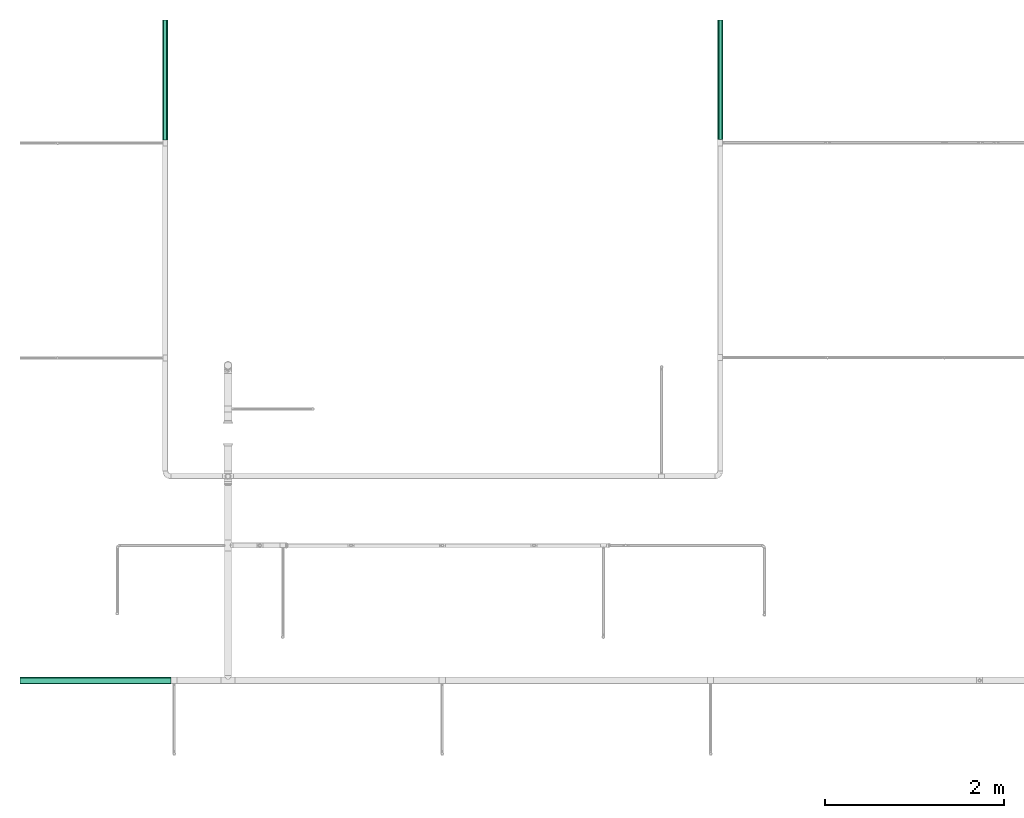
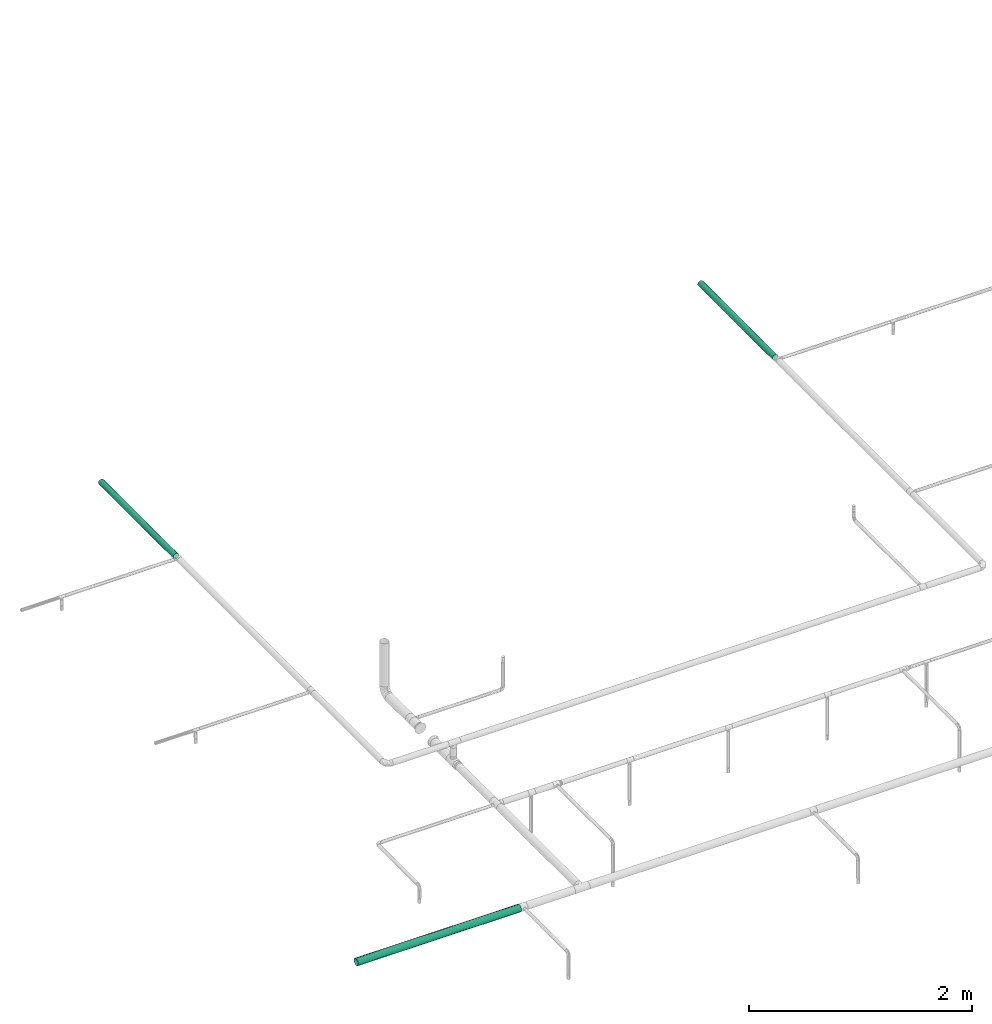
# One storey, part 38 of 45: 3 flow segments.
"""IFC2X3 building model written with IfcOpenShell, lengths in millimetres."""

from ifc_helpers import new_model, entity, si_unit, converted_unit, derived_unit, direction, frame, place, context, subcontext, project, spatial, faceted_brep, type_object, element, save


model = new_model("IFC2X3")

# Units and contexts
model_context = context("Model", 3, precision=0.01, world=frame((0.0, 4.29681676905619e-09, 0.0)), true_north=direction((4.01073788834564e-13, 1.0)))
plan_context = context("Plan", 3, precision=0.01, world=frame((0.0, 4.29681676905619e-09, 0.0)), true_north=direction((4.01073788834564e-13, 1.0)))
body_context = subcontext(model_context, "Body", "Model", "MODEL_VIEW")
ifc_project = project(units=[converted_unit("PLANEANGLEUNIT", "DEGREE", entity("IfcPositiveLengthMeasure", 0.0174532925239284), si_unit("PLANEANGLEUNIT", "RADIAN"), dimensions=[0, 0, 0, 0, 0, 0, 0]), si_unit("AREAUNIT", "SQUARE_METRE"), si_unit("LENGTHUNIT", "METRE", prefix="MILLI"), si_unit("MASSUNIT", "GRAM", prefix="KILO"), si_unit("POWERUNIT", "WATT"), si_unit("PRESSUREUNIT", "PASCAL", prefix="KILO"), si_unit("FORCEUNIT", "NEWTON", prefix="KILO"), si_unit("ELECTRICVOLTAGEUNIT", "VOLT"), si_unit("ELECTRICCURRENTUNIT", "AMPERE"), si_unit("THERMODYNAMICTEMPERATUREUNIT", "DEGREE_CELSIUS"), si_unit("TIMEUNIT", "SECOND"), si_unit("VOLUMEUNIT", "CUBIC_METRE"), derived_unit("LINEARVELOCITYUNIT", [(si_unit("LENGTHUNIT", "METRE"), 1), (si_unit("TIMEUNIT", "SECOND"), -1)]), derived_unit("VOLUMETRICFLOWRATEUNIT", [(si_unit("VOLUMEUNIT", "CUBIC_METRE"), 1), (si_unit("TIMEUNIT", "SECOND"), -1)]), derived_unit("THERMALTRANSMITTANCEUNIT", [(si_unit("POWERUNIT", "WATT"), 1), (si_unit("THERMODYNAMICTEMPERATUREUNIT", "KELVIN"), -1), (si_unit("AREAUNIT", "SQUARE_METRE"), -1)]), derived_unit("SOUNDPRESSUREUNIT", [(si_unit("PRESSUREUNIT", "PASCAL"), 1)])], contexts=[model_context, plan_context])

# Site, building, storey
site_placement = place(None, frame((0.0, -4.29681676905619e-09, 0.0), z_axis=(0.0, 0.0, 1.0), x_axis=(1.0, 0.0, 0.0)))
site = spatial("IfcSite", under=ifc_project, at=site_placement, CompositionType="ELEMENT")
building_placement = place(site_placement, frame((0.0, 4.29681676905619e-09, 0.0), z_axis=(0.0, 0.0, 1.0), x_axis=(1.0, 0.0, 0.0)))
building = spatial("IfcBuilding", under=site, at=building_placement, Name="mc-building", CompositionType="ELEMENT")
storey_placement = place(building_placement, frame((0.0, 0.0, 210200.0), z_axis=(0.0, 0.0, 1.0), x_axis=(1.0, 0.0, 0.0)))
storey = spatial("IfcBuildingStorey", under=building, at=storey_placement, Name="Nivå F - 0,7 m", CompositionType="ELEMENT", Elevation=210200.0)

# Flow segments
pipe_segment_type = type_object("IfcPipeSegmentType", Name="Stålrør normaltykke", PredefinedType="RIGIDSEGMENT")
flow_segment_1_placement = place(storey_placement, frame((323419.17326, 467855.2, 3145.0), z_axis=(0.0, 0.0, 1.0), x_axis=(0.0, -1.0, 0.0)))
element("IfcFlowSegment", 1, at=flow_segment_1_placement, inside=storey, type_object=pipe_segment_type, Name="Stålrør normaltykke", context=body_context, shape_type="Brep", body=[
    faceted_brep([(355.200000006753, 27.673097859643, -4.87951379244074), (355.200000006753, 28.1, 0.0), (1698.1, 28.1, 0.0), (1698.1, 27.673097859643, -4.87951379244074), (355.200000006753, 26.405362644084, -9.61076602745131), (1698.1, 26.405362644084, -9.61076602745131), (355.200000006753, 24.3353138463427, -14.05), (1698.1, 24.3353138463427, -14.05), (355.200000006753, 21.5258488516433, -18.0623318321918), (1698.1, 21.5258488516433, -18.0623318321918), (355.200000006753, 18.0623318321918, -21.5258488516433), (1698.1, 18.0623318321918, -21.5258488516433), (355.200000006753, 14.05, -24.3353138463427), (1698.1, 14.05, -24.3353138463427), (355.200000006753, 9.61076602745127, -26.405362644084), (1698.1, 9.61076602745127, -26.405362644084), (355.200000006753, 4.87951379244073, -27.6730978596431), (1698.1, 4.87951379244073, -27.6730978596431), (355.200000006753, -5.16188625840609e-15, -28.1), (1698.1, -5.16188625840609e-15, -28.1), (355.200000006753, -4.87951379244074, -27.673097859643), (1698.1, -4.87951379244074, -27.673097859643), (355.200000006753, -9.61076602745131, -26.405362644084), (1698.1, -9.61076602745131, -26.405362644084), (355.200000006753, -14.05, -24.3353138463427), (1698.1, -14.05, -24.3353138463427), (355.200000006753, -18.0623318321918, -21.5258488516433), (1698.1, -18.0623318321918, -21.5258488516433), (355.200000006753, -21.5258488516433, -18.0623318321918), (1698.1, -21.5258488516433, -18.0623318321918), (355.200000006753, -24.3353138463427, -14.05), (1698.1, -24.3353138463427, -14.05), (355.200000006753, -26.405362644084, -9.61076602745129), (1698.1, -26.405362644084, -9.61076602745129), (355.200000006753, -27.6730978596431, -4.87951379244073), (1698.1, -27.6730978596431, -4.87951379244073), (355.200000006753, -28.1, 3.44125750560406e-15), (1698.1, -28.1, 3.44125750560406e-15), (355.200000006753, -27.673097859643, 4.87951379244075), (1698.1, -27.673097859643, 4.87951379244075), (355.200000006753, -26.405362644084, 9.6107660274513), (1698.1, -26.405362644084, 9.6107660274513), (355.200000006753, -24.3353138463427, 14.05), (1698.1, -24.3353138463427, 14.05), (355.200000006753, -21.5258488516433, 18.0623318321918), (1698.1, -21.5258488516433, 18.0623318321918), (355.200000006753, -18.0623318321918, 21.5258488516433), (1698.1, -18.0623318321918, 21.5258488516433), (355.200000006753, -14.05, 24.3353138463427), (1698.1, -14.05, 24.3353138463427), (355.200000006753, -9.61076602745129, 26.405362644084), (1698.1, -9.61076602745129, 26.405362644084), (355.200000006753, -4.87951379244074, 27.673097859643), (1698.1, -4.87951379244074, 27.673097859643), (355.200000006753, 1.72062875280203e-15, 28.1), (1698.1, 1.72062875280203e-15, 28.1), (355.200000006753, 4.87951379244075, 27.673097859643), (1698.1, 4.87951379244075, 27.673097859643), (355.200000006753, 9.61076602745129, 26.405362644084), (1698.1, 9.61076602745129, 26.405362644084), (355.200000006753, 14.05, 24.3353138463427), (1698.1, 14.05, 24.3353138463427), (355.200000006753, 18.0623318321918, 21.5258488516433), (1698.1, 18.0623318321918, 21.5258488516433), (355.200000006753, 21.5258488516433, 18.0623318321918), (1698.1, 21.5258488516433, 18.0623318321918), (355.200000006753, 24.3353138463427, 14.05), (1698.1, 24.3353138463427, 14.05), (355.200000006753, 26.405362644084, 9.61076602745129), (1698.1, 26.405362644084, 9.61076602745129), (355.200000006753, 27.673097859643, 4.87951379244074), (1698.1, 27.673097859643, 4.87951379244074), (355.200000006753, 30.1, 0.0), (355.200000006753, 29.6427133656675, -5.2268101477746), (1698.1, 29.6427133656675, -5.2268101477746), (1698.1, 30.1, 0.0), (355.200000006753, 29.6427133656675, 5.2268101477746), (1698.1, 29.6427133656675, 5.2268101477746), (355.200000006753, 28.2847478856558, 10.2948063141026), (1698.1, 28.2847478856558, 10.2948063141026), (355.200000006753, 26.0673646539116, 15.05), (1698.1, 26.0673646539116, 15.05), (355.200000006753, 23.0579377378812, 19.3479070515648), (1698.1, 23.0579377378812, 19.3479070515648), (355.200000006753, 19.3479070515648, 23.0579377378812), (1698.1, 19.3479070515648, 23.0579377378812), (355.200000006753, 15.05, 26.0673646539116), (1698.1, 15.05, 26.0673646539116), (355.200000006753, 10.2948063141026, 28.2847478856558), (1698.1, 10.2948063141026, 28.2847478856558), (355.200000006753, 5.22681014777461, 29.6427133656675), (1698.1, 5.22681014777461, 29.6427133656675), (355.200000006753, 1.84309343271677e-15, 30.1), (1698.1, 1.84309343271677e-15, 30.1), (355.200000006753, -5.2268101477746, 29.6427133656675), (1698.1, -5.2268101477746, 29.6427133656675), (355.200000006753, -10.2948063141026, 28.2847478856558), (1698.1, -10.2948063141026, 28.2847478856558), (355.200000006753, -15.05, 26.0673646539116), (1698.1, -15.05, 26.0673646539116), (355.200000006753, -19.3479070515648, 23.0579377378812), (1698.1, -19.3479070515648, 23.0579377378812), (355.200000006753, -23.0579377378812, 19.3479070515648), (1698.1, -23.0579377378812, 19.3479070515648), (355.200000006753, -26.0673646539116, 15.05), (1698.1, -26.0673646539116, 15.05), (355.200000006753, -28.2847478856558, 10.2948063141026), (1698.1, -28.2847478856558, 10.2948063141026), (355.200000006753, -29.6427133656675, 5.22681014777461), (1698.1, -29.6427133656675, 5.22681014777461), (355.200000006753, -30.1, 3.68618686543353e-15), (1698.1, -30.1, 3.68618686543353e-15), (355.200000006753, -29.6427133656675, -5.22681014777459), (1698.1, -29.6427133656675, -5.22681014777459), (355.200000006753, -28.2847478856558, -10.2948063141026), (1698.1, -28.2847478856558, -10.2948063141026), (355.200000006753, -26.0673646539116, -15.05), (1698.1, -26.0673646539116, -15.05), (355.200000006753, -23.0579377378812, -19.3479070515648), (1698.1, -23.0579377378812, -19.3479070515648), (355.200000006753, -19.3479070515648, -23.0579377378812), (1698.1, -19.3479070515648, -23.0579377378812), (355.200000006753, -15.05, -26.0673646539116), (1698.1, -15.05, -26.0673646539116), (355.200000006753, -10.2948063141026, -28.2847478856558), (1698.1, -10.2948063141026, -28.2847478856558), (355.200000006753, -5.2268101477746, -29.6427133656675), (1698.1, -5.2268101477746, -29.6427133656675), (355.200000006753, -5.5292802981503e-15, -30.1), (1698.1, -5.5292802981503e-15, -30.1), (355.200000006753, 5.22681014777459, -29.6427133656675), (1698.1, 5.22681014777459, -29.6427133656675), (355.200000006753, 10.2948063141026, -28.2847478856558), (1698.1, 10.2948063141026, -28.2847478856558), (355.200000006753, 15.05, -26.0673646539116), (1698.1, 15.05, -26.0673646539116), (355.200000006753, 19.3479070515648, -23.0579377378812), (1698.1, 19.3479070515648, -23.0579377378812), (355.200000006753, 23.0579377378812, -19.3479070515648), (1698.1, 23.0579377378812, -19.3479070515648), (355.200000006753, 26.0673646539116, -15.05), (1698.1, 26.0673646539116, -15.05), (355.200000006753, 28.2847478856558, -10.2948063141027), (1698.1, 28.2847478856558, -10.2948063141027)], [[[0, 1, 2, 3]], [[4, 0, 3, 5]], [[6, 4, 5, 7]], [[8, 6, 7, 9]], [[10, 8, 9, 11]], [[12, 10, 11, 13]], [[14, 12, 13, 15]], [[16, 14, 15, 17]], [[18, 16, 17, 19]], [[20, 18, 19, 21]], [[22, 20, 21, 23]], [[24, 22, 23, 25]], [[26, 24, 25, 27]], [[28, 26, 27, 29]], [[30, 28, 29, 31]], [[32, 30, 31, 33]], [[34, 32, 33, 35]], [[36, 34, 35, 37]], [[38, 36, 37, 39]], [[40, 38, 39, 41]], [[42, 40, 41, 43]], [[44, 42, 43, 45]], [[46, 44, 45, 47]], [[48, 46, 47, 49]], [[50, 48, 49, 51]], [[52, 50, 51, 53]], [[54, 52, 53, 55]], [[56, 54, 55, 57]], [[58, 56, 57, 59]], [[60, 58, 59, 61]], [[62, 60, 61, 63]], [[64, 62, 63, 65]], [[66, 64, 65, 67]], [[68, 66, 67, 69]], [[70, 68, 69, 71]], [[1, 70, 71, 2]], [[72, 73, 74, 75]], [[76, 72, 75, 77]], [[78, 76, 77, 79]], [[80, 78, 79, 81]], [[82, 80, 81, 83]], [[84, 82, 83, 85]], [[86, 84, 85, 87]], [[88, 86, 87, 89]], [[90, 88, 89, 91]], [[92, 90, 91, 93]], [[94, 92, 93, 95]], [[96, 94, 95, 97]], [[98, 96, 97, 99]], [[100, 98, 99, 101]], [[102, 100, 101, 103]], [[104, 102, 103, 105]], [[106, 104, 105, 107]], [[108, 106, 107, 109]], [[110, 108, 109, 111]], [[112, 110, 111, 113]], [[114, 112, 113, 115]], [[116, 114, 115, 117]], [[118, 116, 117, 119]], [[120, 118, 119, 121]], [[122, 120, 121, 123]], [[124, 122, 123, 125]], [[126, 124, 125, 127]], [[128, 126, 127, 129]], [[130, 128, 129, 131]], [[132, 130, 131, 133]], [[134, 132, 133, 135]], [[136, 134, 135, 137]], [[138, 136, 137, 139]], [[140, 138, 139, 141]], [[142, 140, 141, 143]], [[73, 142, 143, 74]], [[75, 74, 143, 141, 139, 137, 135, 133, 131, 129, 127, 125, 123, 121, 119, 117, 115, 113, 111, 109, 107, 105, 103, 101, 99, 97, 95, 93, 91, 89, 87, 85, 83, 81, 79, 77], [2, 71, 69, 67, 65, 63, 61, 59, 57, 55, 53, 51, 49, 47, 45, 43, 41, 39, 37, 35, 33, 31, 29, 27, 25, 23, 21, 19, 17, 15, 13, 11, 9, 7, 5, 3]], [[76, 78, 80, 82, 84, 86, 88, 90, 92, 94, 96, 98, 100, 102, 104, 106, 108, 110, 112, 114, 116, 118, 120, 122, 124, 126, 128, 130, 132, 134, 136, 138, 140, 142, 73, 72], [4, 6, 8, 10, 12, 14, 16, 18, 20, 22, 24, 26, 28, 30, 32, 34, 36, 38, 40, 42, 44, 46, 48, 50, 52, 54, 56, 58, 60, 62, 64, 66, 68, 70, 1, 0]]], orient=[[False], [False], [False], [False], [False], [False], [False], [False], [False], [False], [False], [False], [False], [False], [False], [False], [False], [False], [False], [False], [False], [False], [False], [False], [False], [False], [False], [False], [False], [False], [False], [False], [False], [False], [False], [False], [False], [False], [False], [False], [False], [False], [False], [False], [False], [False], [False], [False], [False], [False], [False], [False], [False], [False], [False], [False], [False], [False], [False], [False], [False], [False], [False], [False], [False], [False], [False], [False], [False], [False], [False], [False], [False, False], [False, False]]),
])
flow_segment_2_placement = place(storey_placement, frame((329619.17326, 466162.05463, 3145.0), z_axis=(0.0, 0.0, 1.0), x_axis=(0.0, 1.0, 0.0)))
element("IfcFlowSegment", 2, at=flow_segment_2_placement, inside=storey, type_object=pipe_segment_type, Name="Stålrør normaltykke", context=body_context, shape_type="Brep", body=[
    faceted_brep([(1337.94536999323, 28.1, 0.0), (1337.94536999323, 27.673097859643, -4.87951379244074), (0.0, 27.673097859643, -4.87951379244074), (0.0, 28.1, 0.0), (1337.94536999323, 26.405362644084, -9.61076602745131), (0.0, 26.405362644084, -9.61076602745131), (1337.94536999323, 24.3353138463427, -14.05), (0.0, 24.3353138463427, -14.05), (1337.94536999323, 21.5258488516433, -18.0623318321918), (0.0, 21.5258488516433, -18.0623318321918), (1337.94536999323, 18.0623318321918, -21.5258488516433), (0.0, 18.0623318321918, -21.5258488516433), (1337.94536999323, 14.05, -24.3353138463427), (0.0, 14.05, -24.3353138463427), (1337.94536999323, 9.61076602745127, -26.405362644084), (0.0, 9.61076602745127, -26.405362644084), (1337.94536999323, 4.87951379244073, -27.6730978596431), (0.0, 4.87951379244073, -27.6730978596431), (1337.94536999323, -5.16188625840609e-15, -28.1), (0.0, -5.16188625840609e-15, -28.1), (1337.94536999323, -4.87951379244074, -27.673097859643), (0.0, -4.87951379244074, -27.673097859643), (1337.94536999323, -9.61076602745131, -26.405362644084), (0.0, -9.61076602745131, -26.405362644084), (1337.94536999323, -14.05, -24.3353138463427), (0.0, -14.05, -24.3353138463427), (1337.94536999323, -18.0623318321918, -21.5258488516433), (0.0, -18.0623318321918, -21.5258488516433), (1337.94536999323, -21.5258488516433, -18.0623318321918), (0.0, -21.5258488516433, -18.0623318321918), (1337.94536999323, -24.3353138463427, -14.05), (0.0, -24.3353138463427, -14.05), (1337.94536999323, -26.405362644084, -9.61076602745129), (0.0, -26.405362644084, -9.61076602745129), (1337.94536999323, -27.6730978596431, -4.87951379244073), (0.0, -27.6730978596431, -4.87951379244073), (1337.94536999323, -28.1, 3.44125750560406e-15), (0.0, -28.1, 3.44125750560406e-15), (1337.94536999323, -27.673097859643, 4.87951379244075), (0.0, -27.673097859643, 4.87951379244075), (1337.94536999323, -26.405362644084, 9.6107660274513), (0.0, -26.405362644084, 9.6107660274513), (1337.94536999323, -24.3353138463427, 14.05), (0.0, -24.3353138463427, 14.05), (1337.94536999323, -21.5258488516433, 18.0623318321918), (0.0, -21.5258488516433, 18.0623318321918), (1337.94536999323, -18.0623318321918, 21.5258488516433), (0.0, -18.0623318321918, 21.5258488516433), (1337.94536999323, -14.05, 24.3353138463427), (0.0, -14.05, 24.3353138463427), (1337.94536999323, -9.61076602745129, 26.405362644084), (0.0, -9.61076602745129, 26.405362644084), (1337.94536999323, -4.87951379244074, 27.673097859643), (0.0, -4.87951379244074, 27.673097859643), (1337.94536999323, 1.72062875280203e-15, 28.1), (0.0, 1.72062875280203e-15, 28.1), (1337.94536999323, 4.87951379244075, 27.673097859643), (0.0, 4.87951379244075, 27.673097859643), (1337.94536999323, 9.61076602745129, 26.405362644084), (0.0, 9.61076602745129, 26.405362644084), (1337.94536999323, 14.05, 24.3353138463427), (0.0, 14.05, 24.3353138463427), (1337.94536999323, 18.0623318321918, 21.5258488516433), (0.0, 18.0623318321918, 21.5258488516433), (1337.94536999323, 21.5258488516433, 18.0623318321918), (0.0, 21.5258488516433, 18.0623318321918), (1337.94536999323, 24.3353138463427, 14.05), (0.0, 24.3353138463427, 14.05), (1337.94536999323, 26.405362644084, 9.61076602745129), (0.0, 26.405362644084, 9.61076602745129), (1337.94536999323, 27.673097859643, 4.87951379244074), (0.0, 27.673097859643, 4.87951379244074), (1337.94536999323, 29.6427133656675, -5.2268101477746), (1337.94536999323, 30.1, 0.0), (0.0, 30.1, 0.0), (0.0, 29.6427133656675, -5.2268101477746), (1337.94536999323, 29.6427133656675, 5.2268101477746), (0.0, 29.6427133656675, 5.2268101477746), (1337.94536999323, 28.2847478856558, 10.2948063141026), (0.0, 28.2847478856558, 10.2948063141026), (1337.94536999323, 26.0673646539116, 15.05), (0.0, 26.0673646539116, 15.05), (1337.94536999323, 23.0579377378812, 19.3479070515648), (0.0, 23.0579377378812, 19.3479070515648), (1337.94536999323, 19.3479070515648, 23.0579377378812), (0.0, 19.3479070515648, 23.0579377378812), (1337.94536999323, 15.05, 26.0673646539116), (0.0, 15.05, 26.0673646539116), (1337.94536999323, 10.2948063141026, 28.2847478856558), (0.0, 10.2948063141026, 28.2847478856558), (1337.94536999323, 5.22681014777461, 29.6427133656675), (0.0, 5.22681014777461, 29.6427133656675), (1337.94536999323, 1.84309343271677e-15, 30.1), (0.0, 1.84309343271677e-15, 30.1), (1337.94536999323, -5.2268101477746, 29.6427133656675), (0.0, -5.2268101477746, 29.6427133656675), (1337.94536999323, -10.2948063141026, 28.2847478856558), (0.0, -10.2948063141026, 28.2847478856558), (1337.94536999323, -15.05, 26.0673646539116), (0.0, -15.05, 26.0673646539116), (1337.94536999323, -19.3479070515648, 23.0579377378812), (0.0, -19.3479070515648, 23.0579377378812), (1337.94536999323, -23.0579377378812, 19.3479070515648), (0.0, -23.0579377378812, 19.3479070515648), (1337.94536999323, -26.0673646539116, 15.05), (0.0, -26.0673646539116, 15.05), (1337.94536999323, -28.2847478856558, 10.2948063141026), (0.0, -28.2847478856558, 10.2948063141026), (1337.94536999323, -29.6427133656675, 5.22681014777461), (0.0, -29.6427133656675, 5.22681014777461), (1337.94536999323, -30.1, 3.68618686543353e-15), (0.0, -30.1, 3.68618686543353e-15), (1337.94536999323, -29.6427133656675, -5.22681014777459), (0.0, -29.6427133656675, -5.22681014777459), (1337.94536999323, -28.2847478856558, -10.2948063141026), (0.0, -28.2847478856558, -10.2948063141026), (1337.94536999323, -26.0673646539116, -15.05), (0.0, -26.0673646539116, -15.05), (1337.94536999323, -23.0579377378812, -19.3479070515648), (0.0, -23.0579377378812, -19.3479070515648), (1337.94536999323, -19.3479070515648, -23.0579377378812), (0.0, -19.3479070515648, -23.0579377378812), (1337.94536999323, -15.05, -26.0673646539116), (0.0, -15.05, -26.0673646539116), (1337.94536999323, -10.2948063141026, -28.2847478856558), (0.0, -10.2948063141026, -28.2847478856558), (1337.94536999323, -5.2268101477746, -29.6427133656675), (0.0, -5.2268101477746, -29.6427133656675), (1337.94536999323, -5.5292802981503e-15, -30.1), (0.0, -5.5292802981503e-15, -30.1), (1337.94536999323, 5.22681014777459, -29.6427133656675), (0.0, 5.22681014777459, -29.6427133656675), (1337.94536999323, 10.2948063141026, -28.2847478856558), (0.0, 10.2948063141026, -28.2847478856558), (1337.94536999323, 15.05, -26.0673646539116), (0.0, 15.05, -26.0673646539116), (1337.94536999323, 19.3479070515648, -23.0579377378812), (0.0, 19.3479070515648, -23.0579377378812), (1337.94536999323, 23.0579377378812, -19.3479070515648), (0.0, 23.0579377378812, -19.3479070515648), (1337.94536999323, 26.0673646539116, -15.05), (0.0, 26.0673646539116, -15.05), (1337.94536999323, 28.2847478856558, -10.2948063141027), (0.0, 28.2847478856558, -10.2948063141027)], [[[0, 1, 2, 3]], [[1, 4, 5, 2]], [[4, 6, 7, 5]], [[6, 8, 9, 7]], [[8, 10, 11, 9]], [[10, 12, 13, 11]], [[12, 14, 15, 13]], [[14, 16, 17, 15]], [[16, 18, 19, 17]], [[18, 20, 21, 19]], [[20, 22, 23, 21]], [[22, 24, 25, 23]], [[24, 26, 27, 25]], [[26, 28, 29, 27]], [[28, 30, 31, 29]], [[30, 32, 33, 31]], [[32, 34, 35, 33]], [[34, 36, 37, 35]], [[36, 38, 39, 37]], [[38, 40, 41, 39]], [[40, 42, 43, 41]], [[42, 44, 45, 43]], [[44, 46, 47, 45]], [[46, 48, 49, 47]], [[48, 50, 51, 49]], [[50, 52, 53, 51]], [[52, 54, 55, 53]], [[54, 56, 57, 55]], [[56, 58, 59, 57]], [[58, 60, 61, 59]], [[60, 62, 63, 61]], [[62, 64, 65, 63]], [[64, 66, 67, 65]], [[66, 68, 69, 67]], [[68, 70, 71, 69]], [[70, 0, 3, 71]], [[72, 73, 74, 75]], [[73, 76, 77, 74]], [[76, 78, 79, 77]], [[78, 80, 81, 79]], [[80, 82, 83, 81]], [[82, 84, 85, 83]], [[84, 86, 87, 85]], [[86, 88, 89, 87]], [[88, 90, 91, 89]], [[90, 92, 93, 91]], [[92, 94, 95, 93]], [[94, 96, 97, 95]], [[96, 98, 99, 97]], [[98, 100, 101, 99]], [[100, 102, 103, 101]], [[102, 104, 105, 103]], [[104, 106, 107, 105]], [[106, 108, 109, 107]], [[108, 110, 111, 109]], [[110, 112, 113, 111]], [[112, 114, 115, 113]], [[114, 116, 117, 115]], [[116, 118, 119, 117]], [[118, 120, 121, 119]], [[120, 122, 123, 121]], [[122, 124, 125, 123]], [[124, 126, 127, 125]], [[126, 128, 129, 127]], [[128, 130, 131, 129]], [[130, 132, 133, 131]], [[132, 134, 135, 133]], [[134, 136, 137, 135]], [[136, 138, 139, 137]], [[138, 140, 141, 139]], [[140, 142, 143, 141]], [[142, 72, 75, 143]], [[75, 74, 77, 79, 81, 83, 85, 87, 89, 91, 93, 95, 97, 99, 101, 103, 105, 107, 109, 111, 113, 115, 117, 119, 121, 123, 125, 127, 129, 131, 133, 135, 137, 139, 141, 143], [3, 2, 5, 7, 9, 11, 13, 15, 17, 19, 21, 23, 25, 27, 29, 31, 33, 35, 37, 39, 41, 43, 45, 47, 49, 51, 53, 55, 57, 59, 61, 63, 65, 67, 69, 71]], [[142, 140, 138, 136, 134, 132, 130, 128, 126, 124, 122, 120, 118, 116, 114, 112, 110, 108, 106, 104, 102, 100, 98, 96, 94, 92, 90, 88, 86, 84, 82, 80, 78, 76, 73, 72], [70, 68, 66, 64, 62, 60, 58, 56, 54, 52, 50, 48, 46, 44, 42, 40, 38, 36, 34, 32, 30, 28, 26, 24, 22, 20, 18, 16, 14, 12, 10, 8, 6, 4, 1, 0]]], orient=[[False], [False], [False], [False], [False], [False], [False], [False], [False], [False], [False], [False], [False], [False], [False], [False], [False], [False], [False], [False], [False], [False], [False], [False], [False], [False], [False], [False], [False], [False], [False], [False], [False], [False], [False], [False], [False], [False], [False], [False], [False], [False], [False], [False], [False], [False], [False], [False], [False], [False], [False], [False], [False], [False], [False], [False], [False], [False], [False], [False], [False], [False], [False], [False], [False], [False], [False], [False], [False], [False], [False], [False], [False, False], [False, False]]),
])
flow_segment_3_placement = place(storey_placement, frame((320552.41043, 460120.00018, 2938.0), z_axis=(0.0, 0.0, 1.0), x_axis=(1.0, 0.0, 0.0)))
element("IfcFlowSegment", 3, at=flow_segment_3_placement, inside=storey, type_object=pipe_segment_type, Name="Stålrør normaltykke", context=body_context, shape_type="Brep", body=[
    faceted_brep([(1242.33957000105, 35.4530791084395, -6.25133439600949), (1242.33957000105, 36.0, 0.0), (2932.4, 36.0, 0.0), (2932.4, 35.4530791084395, -6.25133439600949), (1242.33957000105, 33.8289343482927, -12.3127251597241), (2932.4, 33.8289343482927, -12.3127251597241), (1242.33957000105, 31.1769145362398, -18.0), (2932.4, 31.1769145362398, -18.0), (1242.33957000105, 27.5775999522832, -23.1403539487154), (2932.4, 27.5775999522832, -23.1403539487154), (1242.33957000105, 23.1403539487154, -27.5775999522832), (2932.4, 23.1403539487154, -27.5775999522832), (1242.33957000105, 18.0, -31.1769145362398), (2932.4, 18.0, -31.1769145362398), (1242.33957000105, 12.3127251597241, -33.8289343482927), (2932.4, 12.3127251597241, -33.8289343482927), (1242.33957000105, 6.25133439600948, -35.4530791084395), (2932.4, 6.25133439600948, -35.4530791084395), (1242.33957000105, -6.61309271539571e-15, -36.0), (2932.4, -6.61309271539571e-15, -36.0), (1242.33957000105, -6.25133439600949, -35.4530791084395), (2932.4, -6.25133439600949, -35.4530791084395), (1242.33957000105, -12.3127251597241, -33.8289343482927), (2932.4, -12.3127251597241, -33.8289343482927), (1242.33957000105, -18.0, -31.1769145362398), (2932.4, -18.0, -31.1769145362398), (1242.33957000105, -23.1403539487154, -27.5775999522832), (2932.4, -23.1403539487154, -27.5775999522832), (1242.33957000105, -27.5775999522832, -23.1403539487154), (2932.4, -27.5775999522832, -23.1403539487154), (1242.33957000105, -31.1769145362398, -18.0), (2932.4, -31.1769145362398, -18.0), (1242.33957000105, -33.8289343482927, -12.3127251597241), (2932.4, -33.8289343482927, -12.3127251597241), (1242.33957000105, -35.4530791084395, -6.25133439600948), (2932.4, -35.4530791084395, -6.25133439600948), (1242.33957000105, -36.0, 4.40872847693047e-15), (2932.4, -36.0, 4.40872847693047e-15), (1242.33957000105, -35.4530791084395, 6.25133439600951), (2932.4, -35.4530791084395, 6.25133439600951), (1242.33957000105, -33.8289343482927, 12.3127251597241), (2932.4, -33.8289343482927, 12.3127251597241), (1242.33957000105, -31.1769145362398, 18.0), (2932.4, -31.1769145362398, 18.0), (1242.33957000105, -27.5775999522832, 23.1403539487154), (2932.4, -27.5775999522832, 23.1403539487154), (1242.33957000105, -23.1403539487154, 27.5775999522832), (2932.4, -23.1403539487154, 27.5775999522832), (1242.33957000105, -18.0, 31.1769145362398), (2932.4, -18.0, 31.1769145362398), (1242.33957000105, -12.3127251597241, 33.8289343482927), (2932.4, -12.3127251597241, 33.8289343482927), (1242.33957000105, -6.25133439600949, 35.4530791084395), (2932.4, -6.25133439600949, 35.4530791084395), (1242.33957000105, 2.20436423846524e-15, 36.0), (2932.4, 2.20436423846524e-15, 36.0), (1242.33957000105, 6.2513343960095, 35.4530791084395), (2932.4, 6.2513343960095, 35.4530791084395), (1242.33957000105, 12.3127251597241, 33.8289343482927), (2932.4, 12.3127251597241, 33.8289343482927), (1242.33957000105, 18.0, 31.1769145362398), (2932.4, 18.0, 31.1769145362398), (1242.33957000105, 23.1403539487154, 27.5775999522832), (2932.4, 23.1403539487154, 27.5775999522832), (1242.33957000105, 27.5775999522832, 23.1403539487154), (2932.4, 27.5775999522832, 23.1403539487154), (1242.33957000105, 31.1769145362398, 18.0), (2932.4, 31.1769145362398, 18.0), (1242.33957000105, 33.8289343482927, 12.3127251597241), (2932.4, 33.8289343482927, 12.3127251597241), (1242.33957000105, 35.4530791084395, 6.25133439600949), (2932.4, 35.4530791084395, 6.25133439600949), (1242.33957000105, 38.0, 0.0), (1242.33957000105, 37.4226946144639, -6.59863075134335), (2932.4, 37.4226946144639, -6.59863075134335), (2932.4, 38.0, 0.0), (1242.33957000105, 37.4226946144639, 6.59863075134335), (2932.4, 37.4226946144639, 6.59863075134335), (1242.33957000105, 35.7083195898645, 12.9967654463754), (2932.4, 35.7083195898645, 12.9967654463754), (1242.33957000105, 32.9089653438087, 19.0), (2932.4, 32.9089653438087, 19.0), (1242.33957000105, 29.1096888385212, 24.4259291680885), (2932.4, 29.1096888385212, 24.4259291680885), (1242.33957000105, 24.4259291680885, 29.1096888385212), (2932.4, 24.4259291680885, 29.1096888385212), (1242.33957000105, 19.0, 32.9089653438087), (2932.4, 19.0, 32.9089653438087), (1242.33957000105, 12.9967654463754, 35.7083195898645), (2932.4, 12.9967654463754, 35.7083195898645), (1242.33957000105, 6.59863075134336, 37.4226946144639), (2932.4, 6.59863075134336, 37.4226946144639), (1242.33957000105, 2.32682891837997e-15, 38.0), (2932.4, 2.32682891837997e-15, 38.0), (1242.33957000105, -6.59863075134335, 37.4226946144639), (2932.4, -6.59863075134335, 37.4226946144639), (1242.33957000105, -12.9967654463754, 35.7083195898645), (2932.4, -12.9967654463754, 35.7083195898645), (1242.33957000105, -19.0, 32.9089653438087), (2932.4, -19.0, 32.9089653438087), (1242.33957000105, -24.4259291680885, 29.1096888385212), (2932.4, -24.4259291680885, 29.1096888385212), (1242.33957000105, -29.1096888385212, 24.4259291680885), (2932.4, -29.1096888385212, 24.4259291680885), (1242.33957000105, -32.9089653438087, 19.0), (2932.4, -32.9089653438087, 19.0), (1242.33957000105, -35.7083195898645, 12.9967654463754), (2932.4, -35.7083195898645, 12.9967654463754), (1242.33957000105, -37.4226946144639, 6.59863075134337), (2932.4, -37.4226946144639, 6.59863075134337), (1242.33957000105, -38.0, 4.65365783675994e-15), (2932.4, -38.0, 4.65365783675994e-15), (1242.33957000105, -37.4226946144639, -6.59863075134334), (2932.4, -37.4226946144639, -6.59863075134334), (1242.33957000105, -35.7083195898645, -12.9967654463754), (2932.4, -35.7083195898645, -12.9967654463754), (1242.33957000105, -32.9089653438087, -19.0), (2932.4, -32.9089653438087, -19.0), (1242.33957000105, -29.1096888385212, -24.4259291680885), (2932.4, -29.1096888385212, -24.4259291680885), (1242.33957000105, -24.4259291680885, -29.1096888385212), (2932.4, -24.4259291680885, -29.1096888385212), (1242.33957000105, -19.0, -32.9089653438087), (2932.4, -19.0, -32.9089653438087), (1242.33957000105, -12.9967654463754, -35.7083195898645), (2932.4, -12.9967654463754, -35.7083195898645), (1242.33957000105, -6.59863075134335, -37.4226946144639), (2932.4, -6.59863075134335, -37.4226946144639), (1242.33957000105, -6.98048675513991e-15, -38.0), (2932.4, -6.98048675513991e-15, -38.0), (1242.33957000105, 6.59863075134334, -37.4226946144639), (2932.4, 6.59863075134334, -37.4226946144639), (1242.33957000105, 12.9967654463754, -35.7083195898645), (2932.4, 12.9967654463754, -35.7083195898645), (1242.33957000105, 19.0, -32.9089653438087), (2932.4, 19.0, -32.9089653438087), (1242.33957000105, 24.4259291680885, -29.1096888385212), (2932.4, 24.4259291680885, -29.1096888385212), (1242.33957000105, 29.1096888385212, -24.4259291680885), (2932.4, 29.1096888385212, -24.4259291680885), (1242.33957000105, 32.9089653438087, -19.0), (2932.4, 32.9089653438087, -19.0), (1242.33957000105, 35.7083195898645, -12.9967654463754), (2932.4, 35.7083195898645, -12.9967654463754)], [[[0, 1, 2, 3]], [[4, 0, 3, 5]], [[6, 4, 5, 7]], [[8, 6, 7, 9]], [[10, 8, 9, 11]], [[12, 10, 11, 13]], [[14, 12, 13, 15]], [[16, 14, 15, 17]], [[18, 16, 17, 19]], [[20, 18, 19, 21]], [[22, 20, 21, 23]], [[24, 22, 23, 25]], [[26, 24, 25, 27]], [[28, 26, 27, 29]], [[30, 28, 29, 31]], [[32, 30, 31, 33]], [[34, 32, 33, 35]], [[36, 34, 35, 37]], [[38, 36, 37, 39]], [[40, 38, 39, 41]], [[42, 40, 41, 43]], [[44, 42, 43, 45]], [[46, 44, 45, 47]], [[48, 46, 47, 49]], [[50, 48, 49, 51]], [[52, 50, 51, 53]], [[54, 52, 53, 55]], [[56, 54, 55, 57]], [[58, 56, 57, 59]], [[60, 58, 59, 61]], [[62, 60, 61, 63]], [[64, 62, 63, 65]], [[66, 64, 65, 67]], [[68, 66, 67, 69]], [[70, 68, 69, 71]], [[1, 70, 71, 2]], [[72, 73, 74, 75]], [[76, 72, 75, 77]], [[78, 76, 77, 79]], [[80, 78, 79, 81]], [[82, 80, 81, 83]], [[84, 82, 83, 85]], [[86, 84, 85, 87]], [[88, 86, 87, 89]], [[90, 88, 89, 91]], [[92, 90, 91, 93]], [[94, 92, 93, 95]], [[96, 94, 95, 97]], [[98, 96, 97, 99]], [[100, 98, 99, 101]], [[102, 100, 101, 103]], [[104, 102, 103, 105]], [[106, 104, 105, 107]], [[108, 106, 107, 109]], [[110, 108, 109, 111]], [[112, 110, 111, 113]], [[114, 112, 113, 115]], [[116, 114, 115, 117]], [[118, 116, 117, 119]], [[120, 118, 119, 121]], [[122, 120, 121, 123]], [[124, 122, 123, 125]], [[126, 124, 125, 127]], [[128, 126, 127, 129]], [[130, 128, 129, 131]], [[132, 130, 131, 133]], [[134, 132, 133, 135]], [[136, 134, 135, 137]], [[138, 136, 137, 139]], [[140, 138, 139, 141]], [[142, 140, 141, 143]], [[73, 142, 143, 74]], [[75, 74, 143, 141, 139, 137, 135, 133, 131, 129, 127, 125, 123, 121, 119, 117, 115, 113, 111, 109, 107, 105, 103, 101, 99, 97, 95, 93, 91, 89, 87, 85, 83, 81, 79, 77], [2, 71, 69, 67, 65, 63, 61, 59, 57, 55, 53, 51, 49, 47, 45, 43, 41, 39, 37, 35, 33, 31, 29, 27, 25, 23, 21, 19, 17, 15, 13, 11, 9, 7, 5, 3]], [[76, 78, 80, 82, 84, 86, 88, 90, 92, 94, 96, 98, 100, 102, 104, 106, 108, 110, 112, 114, 116, 118, 120, 122, 124, 126, 128, 130, 132, 134, 136, 138, 140, 142, 73, 72], [4, 6, 8, 10, 12, 14, 16, 18, 20, 22, 24, 26, 28, 30, 32, 34, 36, 38, 40, 42, 44, 46, 48, 50, 52, 54, 56, 58, 60, 62, 64, 66, 68, 70, 1, 0]]], orient=[[False], [False], [False], [False], [False], [False], [False], [False], [False], [False], [False], [False], [False], [False], [False], [False], [False], [False], [False], [False], [False], [False], [False], [False], [False], [False], [False], [False], [False], [False], [False], [False], [False], [False], [False], [False], [False], [False], [False], [False], [False], [False], [False], [False], [False], [False], [False], [False], [False], [False], [False], [False], [False], [False], [False], [False], [False], [False], [False], [False], [False], [False], [False], [False], [False], [False], [False], [False], [False], [False], [False], [False], [False, False], [False, False]]),
])

save(model, "model.ifc")
